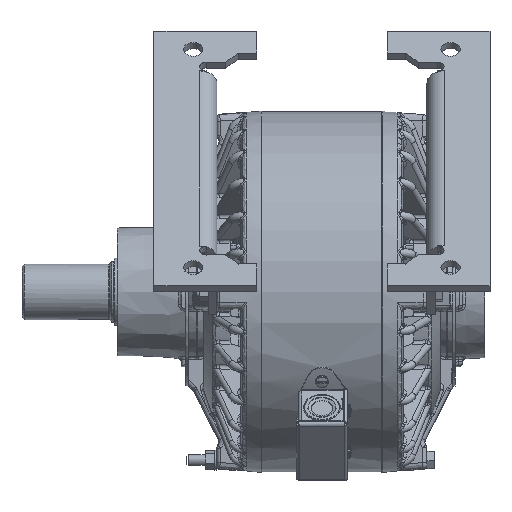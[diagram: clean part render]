
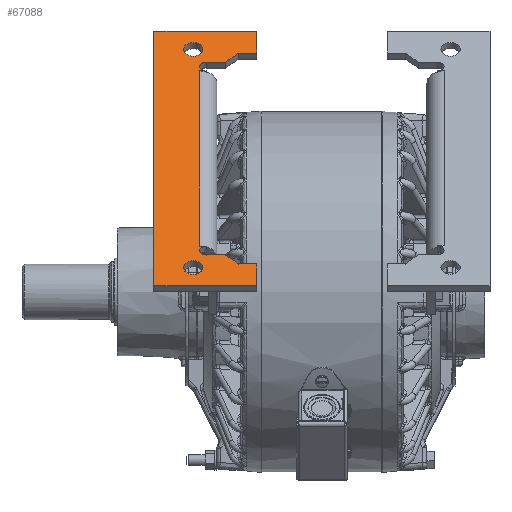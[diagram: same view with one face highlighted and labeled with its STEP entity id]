
A CAD part, left-side view. The second image highlights one B-rep face of the part: STEP entity #67088.
In plain terms, the highlighted planar face has unit normal (-0.707, 0, 0.707).
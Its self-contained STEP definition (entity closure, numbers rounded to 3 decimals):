
#1888=FACE_BOUND('',#9721,.T.);
#1889=FACE_BOUND('',#9722,.T.);
#2296=PLANE('',#72908);
#5336=FACE_OUTER_BOUND('',#9720,.T.);
#9720=EDGE_LOOP('',(#50770,#50771,#50772,#50773,#50774,#50775,#50776,#50777,
#50778,#50779,#50780,#50781,#50782,#50783,#50784,#50785));
#9721=EDGE_LOOP('',(#50786));
#9722=EDGE_LOOP('',(#50787));
#13615=LINE('',#127794,#16328);
#13616=LINE('',#127799,#16329);
#13617=LINE('',#127801,#16330);
#13618=LINE('',#127803,#16331);
#13619=LINE('',#127805,#16332);
#13620=LINE('',#127807,#16333);
#13621=LINE('',#127808,#16334);
#13622=LINE('',#127810,#16335);
#13623=LINE('',#127811,#16336);
#13624=LINE('',#127813,#16337);
#13625=LINE('',#127815,#16338);
#13626=LINE('',#127817,#16339);
#13627=LINE('',#127819,#16340);
#13628=LINE('',#127820,#16341);
#16328=VECTOR('',#84349,39.37);
#16329=VECTOR('',#84354,39.37);
#16330=VECTOR('',#84355,39.37);
#16331=VECTOR('',#84356,39.37);
#16332=VECTOR('',#84357,39.37);
#16333=VECTOR('',#84358,39.37);
#16334=VECTOR('',#84359,39.37);
#16335=VECTOR('',#84360,39.37);
#16336=VECTOR('',#84361,39.37);
#16337=VECTOR('',#84362,39.37);
#16338=VECTOR('',#84363,39.37);
#16339=VECTOR('',#84364,39.37);
#16340=VECTOR('',#84365,39.37);
#16341=VECTOR('',#84366,39.37);
#23295=CIRCLE('',#72893,0.281);
#23297=CIRCLE('',#72896,0.18);
#23300=CIRCLE('',#72901,0.281);
#23302=CIRCLE('',#72904,0.18);
#28125=VERTEX_POINT('',#127753);
#28127=VERTEX_POINT('',#127759);
#28128=VERTEX_POINT('',#127760);
#28134=VERTEX_POINT('',#127776);
#28136=VERTEX_POINT('',#127782);
#28137=VERTEX_POINT('',#127783);
#28141=VERTEX_POINT('',#127793);
#28142=VERTEX_POINT('',#127797);
#28143=VERTEX_POINT('',#127798);
#28144=VERTEX_POINT('',#127800);
#28145=VERTEX_POINT('',#127802);
#28146=VERTEX_POINT('',#127804);
#28147=VERTEX_POINT('',#127806);
#28148=VERTEX_POINT('',#127809);
#28149=VERTEX_POINT('',#127812);
#28150=VERTEX_POINT('',#127814);
#28151=VERTEX_POINT('',#127816);
#28152=VERTEX_POINT('',#127818);
#36075=EDGE_CURVE('',#28125,#28125,#23295,.T.);
#36078=EDGE_CURVE('',#28127,#28128,#23297,.T.);
#36086=EDGE_CURVE('',#28134,#28134,#23300,.T.);
#36089=EDGE_CURVE('',#28136,#28137,#23302,.T.);
#36094=EDGE_CURVE('',#28141,#28137,#13615,.T.);
#36096=EDGE_CURVE('',#28142,#28143,#13616,.T.);
#36097=EDGE_CURVE('',#28142,#28144,#13617,.T.);
#36098=EDGE_CURVE('',#28144,#28145,#13618,.T.);
#36099=EDGE_CURVE('',#28145,#28146,#13619,.T.);
#36100=EDGE_CURVE('',#28146,#28147,#13620,.T.);
#36101=EDGE_CURVE('',#28147,#28127,#13621,.T.);
#36102=EDGE_CURVE('',#28148,#28128,#13622,.T.);
#36103=EDGE_CURVE('',#28148,#28141,#13623,.T.);
#36104=EDGE_CURVE('',#28149,#28136,#13624,.T.);
#36105=EDGE_CURVE('',#28150,#28149,#13625,.T.);
#36106=EDGE_CURVE('',#28151,#28150,#13626,.T.);
#36107=EDGE_CURVE('',#28152,#28151,#13627,.T.);
#36108=EDGE_CURVE('',#28143,#28152,#13628,.T.);
#50770=ORIENTED_EDGE('',*,*,#36096,.F.);
#50771=ORIENTED_EDGE('',*,*,#36097,.T.);
#50772=ORIENTED_EDGE('',*,*,#36098,.T.);
#50773=ORIENTED_EDGE('',*,*,#36099,.T.);
#50774=ORIENTED_EDGE('',*,*,#36100,.T.);
#50775=ORIENTED_EDGE('',*,*,#36101,.T.);
#50776=ORIENTED_EDGE('',*,*,#36078,.T.);
#50777=ORIENTED_EDGE('',*,*,#36102,.F.);
#50778=ORIENTED_EDGE('',*,*,#36103,.T.);
#50779=ORIENTED_EDGE('',*,*,#36094,.T.);
#50780=ORIENTED_EDGE('',*,*,#36089,.F.);
#50781=ORIENTED_EDGE('',*,*,#36104,.F.);
#50782=ORIENTED_EDGE('',*,*,#36105,.F.);
#50783=ORIENTED_EDGE('',*,*,#36106,.F.);
#50784=ORIENTED_EDGE('',*,*,#36107,.F.);
#50785=ORIENTED_EDGE('',*,*,#36108,.F.);
#50786=ORIENTED_EDGE('',*,*,#36075,.F.);
#50787=ORIENTED_EDGE('',*,*,#36086,.T.);
#67088=ADVANCED_FACE('',(#5336,#1888,#1889),#2296,.T.);
#72893=AXIS2_PLACEMENT_3D('',#127754,#84311,#84312);
#72896=AXIS2_PLACEMENT_3D('',#127761,#84318,#84319);
#72901=AXIS2_PLACEMENT_3D('',#127777,#84333,#84334);
#72904=AXIS2_PLACEMENT_3D('',#127784,#84340,#84341);
#72908=AXIS2_PLACEMENT_3D('',#127796,#84352,#84353);
#84311=DIRECTION('center_axis',(-0.707,0.,
0.707));
#84312=DIRECTION('ref_axis',(0.,1.,0.));
#84318=DIRECTION('center_axis',(0.707,0.,
-0.707));
#84319=DIRECTION('ref_axis',(0.,-1.,0.));
#84333=DIRECTION('center_axis',(0.707,0.,
-0.707));
#84334=DIRECTION('ref_axis',(0.,1.,0.));
#84340=DIRECTION('center_axis',(-0.707,0.,
0.707));
#84341=DIRECTION('ref_axis',(0.,-1.,0.));
#84349=DIRECTION('',(0.,-1.,0.));
#84352=DIRECTION('center_axis',(-0.707,0.,
0.707));
#84353=DIRECTION('ref_axis',(0.,-1.,0.));
#84354=DIRECTION('',(0.707,0.,0.707));
#84355=DIRECTION('',(0.,-1.,0.));
#84356=DIRECTION('',(0.707,0.,0.707));
#84357=DIRECTION('',(0.,1.,0.));
#84358=DIRECTION('',(0.5,0.707,0.5));
#84359=DIRECTION('',(0.,1.,0.));
#84360=DIRECTION('',(0.,-1.,0.));
#84361=DIRECTION('',(0.707,0.,0.707));
#84362=DIRECTION('',(0.,1.,0.));
#84363=DIRECTION('',(-0.5,0.707,-0.5));
#84364=DIRECTION('',(0.,1.,0.));
#84365=DIRECTION('',(-0.707,0.,-0.707));
#84366=DIRECTION('',(0.,-1.,0.));
#127753=CARTESIAN_POINT('',(-7.071,5.219,0.706));
#127754=CARTESIAN_POINT('Origin',(-7.071,5.5,0.706));
#127759=CARTESIAN_POINT('',(-6.696,5.13,1.081));
#127760=CARTESIAN_POINT('',(-6.442,5.13,1.335));
#127761=CARTESIAN_POINT('Origin',(-6.569,5.13,1.208));
#127776=CARTESIAN_POINT('',(-0.707,5.219,7.07));
#127777=CARTESIAN_POINT('Origin',(-0.707,5.5,7.07));
#127782=CARTESIAN_POINT('',(-1.082,5.13,6.695));
#127783=CARTESIAN_POINT('',(-1.336,5.13,6.44));
#127784=CARTESIAN_POINT('Origin',(-1.209,5.13,6.568));
#127793=CARTESIAN_POINT('',(-1.336,5.31,6.44));
#127794=CARTESIAN_POINT('',(-1.336,5.13,6.44));
#127796=CARTESIAN_POINT('Origin',(-1.209,5.13,6.568));
#127797=CARTESIAN_POINT('',(-7.601,6.65,0.175));
#127798=CARTESIAN_POINT('',(-0.177,6.65,7.6));
#127799=CARTESIAN_POINT('',(-3.889,6.65,3.888));
#127800=CARTESIAN_POINT('',(-7.601,3.65,0.175));
#127801=CARTESIAN_POINT('',(-7.601,6.65,0.175));
#127802=CARTESIAN_POINT('',(-6.961,3.65,0.815));
#127803=CARTESIAN_POINT('',(-7.601,3.65,0.175));
#127804=CARTESIAN_POINT('',(-6.961,4.185,0.815));
#127805=CARTESIAN_POINT('',(-6.961,3.65,0.815));
#127806=CARTESIAN_POINT('',(-6.696,4.56,1.081));
#127807=CARTESIAN_POINT('',(-6.961,4.185,0.815));
#127808=CARTESIAN_POINT('',(-6.696,4.56,1.081));
#127809=CARTESIAN_POINT('',(-6.442,5.31,1.335));
#127810=CARTESIAN_POINT('',(-6.442,5.13,1.335));
#127811=CARTESIAN_POINT('',(-3.889,5.31,3.888));
#127812=CARTESIAN_POINT('',(-1.082,4.56,6.695));
#127813=CARTESIAN_POINT('',(-1.082,4.56,6.695));
#127814=CARTESIAN_POINT('',(-0.817,4.185,6.96));
#127815=CARTESIAN_POINT('',(-0.817,4.185,6.96));
#127816=CARTESIAN_POINT('',(-0.817,3.65,6.96));
#127817=CARTESIAN_POINT('',(-0.817,3.65,6.96));
#127818=CARTESIAN_POINT('',(-0.177,3.65,7.6));
#127819=CARTESIAN_POINT('',(-0.177,3.65,7.6));
#127820=CARTESIAN_POINT('',(-0.177,6.65,7.6));
